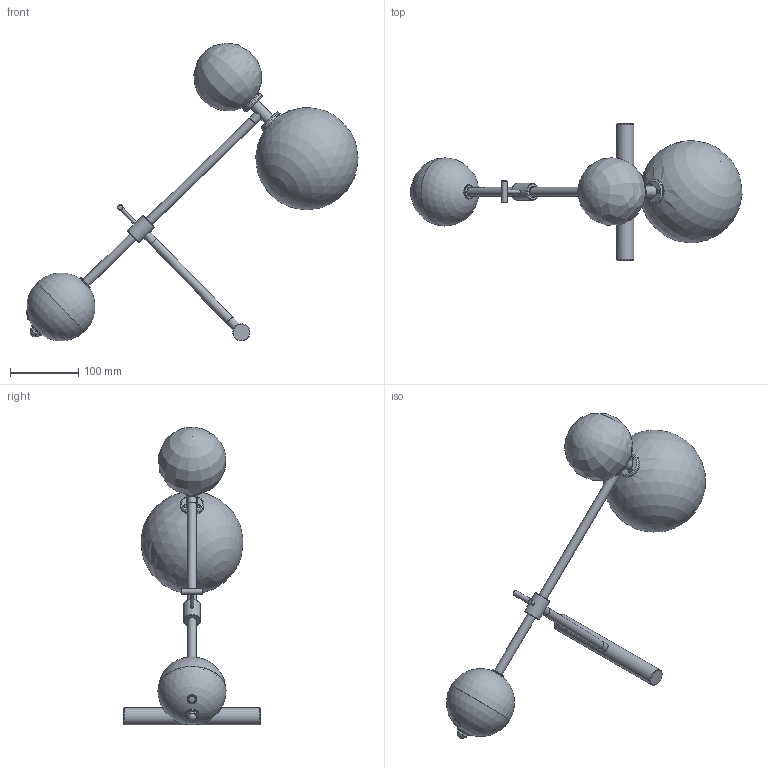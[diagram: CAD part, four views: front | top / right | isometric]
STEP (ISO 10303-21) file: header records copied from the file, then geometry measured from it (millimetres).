
FILE_DESCRIPTION(/* description */ (''),/* implementation_level */ '2;1');
FILE_NAME(/* name */ 'T:\B063 Zosia Table Lamp\Pliki bryłowe handlowe\B063 Zosia.stp',/* time_stamp */ '2022-01-18T10:33:24+01:00',/* author */ ('Mariusz Awariusz'),/* organization */ (''),/* preprocessor_version */ 'ST-DEVELOPER v18.1',/* originating_system */ 'Autodesk Inventor 2022',/* authorisation */ '');
FILE_SCHEMA (('AUTOMOTIVE_DESIGN { 1 0 10303 214 3 1 1 }'));
Length unit declared in the file: millimetre
Products named in the file (1): B063
Bounding box: 486.62 x 200 x 436.64 mm (x, y, z)
Volume: 705520.3 mm3; surface area: 300717.4 mm2
Topology: 1 solids, 4 shells, 165 faces, 395 edges, 253 vertices
Faces by surface type: plane 58, cylinder 52, cone 30, torus 11, sphere 10, bspline 4
Full cylindrical faces by diameter (mm): 2.693 x3, 3 x13, 3.4 x3, 5 x1, 8 x1, 9 x1, 10 x3, 13 x8, 14 x1, 16 x1, 20 x2, 25 x4, 33 x2, 35 x2
Entity records: 5490 total; most frequent: CARTESIAN_POINT 1524, DIRECTION 879, ORIENTED_EDGE 778, EDGE_CURVE 389, AXIS2_PLACEMENT_3D 385, VERTEX_POINT 253, CIRCLE 223, EDGE_LOOP 211
